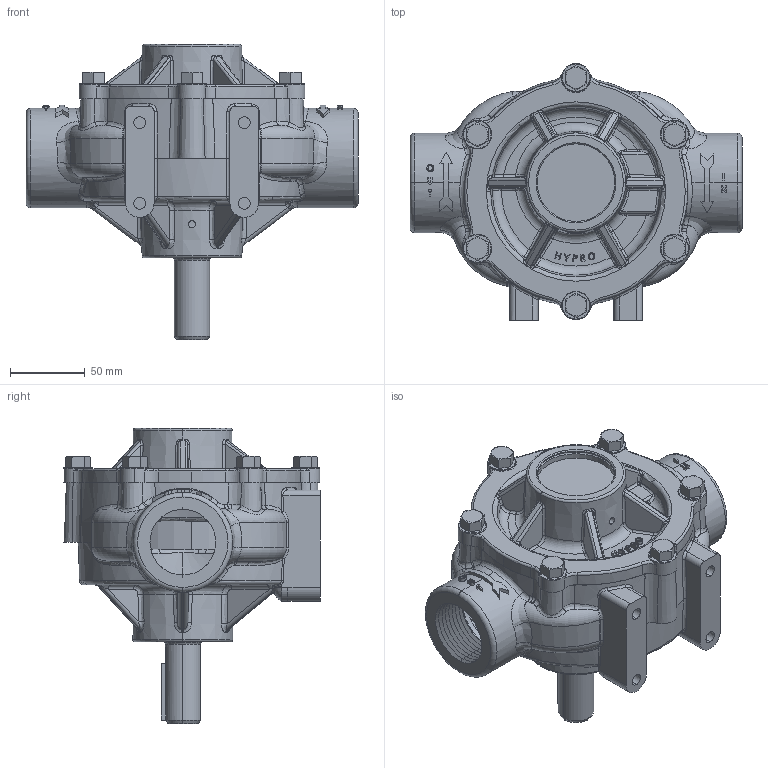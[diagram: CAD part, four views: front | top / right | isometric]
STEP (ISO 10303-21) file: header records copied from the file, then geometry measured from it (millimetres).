
FILE_DESCRIPTION (( 'STEP AP203' ), '1' );
FILE_NAME ('1502C.step', '2013-09-18T20:59:59', ( '' ), ( '' ), 'SwSTEP 2.0', 'SolidWorks 2012', '' );
FILE_SCHEMA (( 'CONFIG_CONTROL_DESIGN' ));
Products named in the file (1): 1502C
Bounding box: 222.25 x 171.88 x 197.67 mm (x, y, z)
Volume: 1835902.5 mm3; surface area: 220244.2 mm2
Topology: 1 solids, 71 shells, 1807 faces, 4373 edges, 2612 vertices
Faces by surface type: cone 539, bspline 391, cylinder 367, plane 322, torus 166, sphere 22
Entity records: 73395 total; most frequent: CARTESIAN_POINT 33466, ORIENTED_EDGE 8686, DIRECTION 8117, EDGE_CURVE 4343, AXIS2_PLACEMENT_3D 3400, VERTEX_POINT 2604, CIRCLE 1983, EDGE_LOOP 1861
